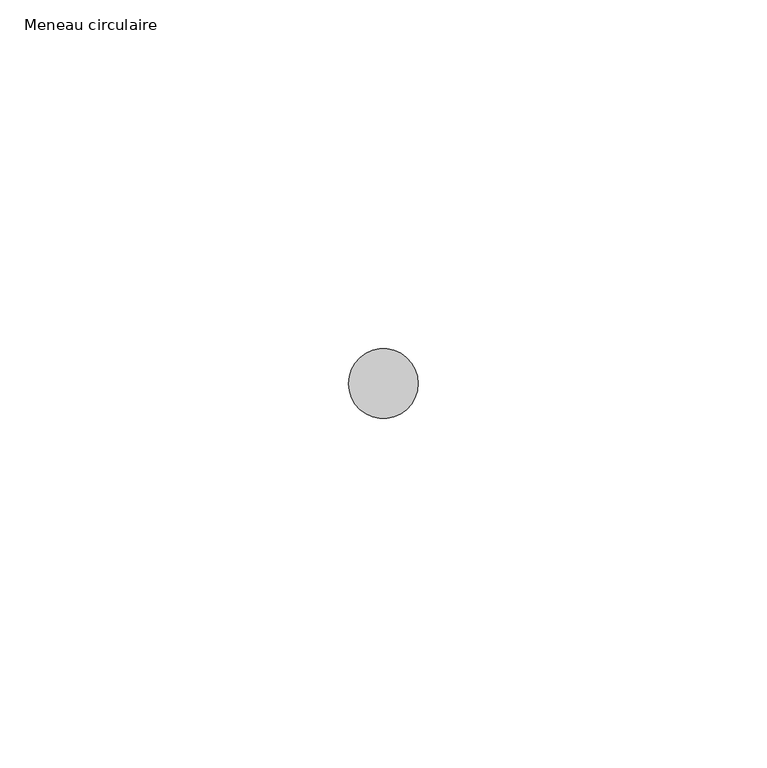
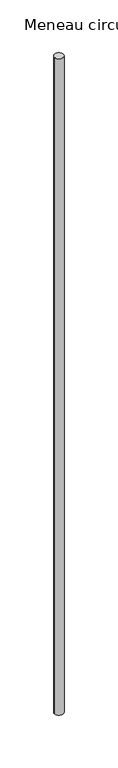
"""IFC4 building model written with IfcOpenShell, lengths in millimetres: member geometry, Meneau circulaire : Diamètre 1cm."""

from ifc_helpers import new_model, si_unit, point, frame, origin, origin_2d, place, context, project, spatial, circle_curve, trimmed, segment, composite_curve, outline, extrude, source, transform, mapped, element, save


def meneau_circulaire_c8c59917(model_context):
    return source(origin(), model_context, "Body", "SweptSolid", [
        extrude(outline(composite_curve([segment(trimmed(circle_curve(origin_2d(), 5.0), [point((5.0, 0.0))], [point((-5.0, 0.0))], False, "CARTESIAN"), True, "CONTINUOUS"), segment(trimmed(circle_curve(origin_2d(), 5.0), [point((-5.0, 0.0))], [point((5.0, 0.0))], False, "CARTESIAN"), True, "CONTINUOUS")], self_intersect=False)), frame((0.0, 0.0, -773.2488287), z_axis=(0.0, 0.0, 1.0), x_axis=(1.0, 0.0, 0.0)), (0.0, 0.0, 1.0), 773.2488287),
    ])


if __name__ == "__main__":
    model = new_model("IFC4")
    model_context = context("Model", 3, world=origin())
    ifc_project = project(units=[si_unit("LENGTHUNIT", "METRE", prefix="MILLI")], contexts=[model_context])
    site = spatial("IfcSite", under=ifc_project)
    building = spatial("IfcBuilding", under=site)
    placement = place(None, origin())
    meneau_circulaire_shape = meneau_circulaire_c8c59917(model_context)
    element("IfcMember", 1, ObjectType="Meneau circulaire : Diamètre 1cm", at=placement, inside=building, context=model_context, shape_type="MappedRepresentation", body=[
        mapped(meneau_circulaire_shape, transform((0.0, 0.0, 0.0), x_axis=(1.0, 0.0, 0.0), y_axis=(0.0, 1.0, 0.0), z_axis=(0.0, 0.0, 1.0))),
    ])
    save(model, "model.ifc")
